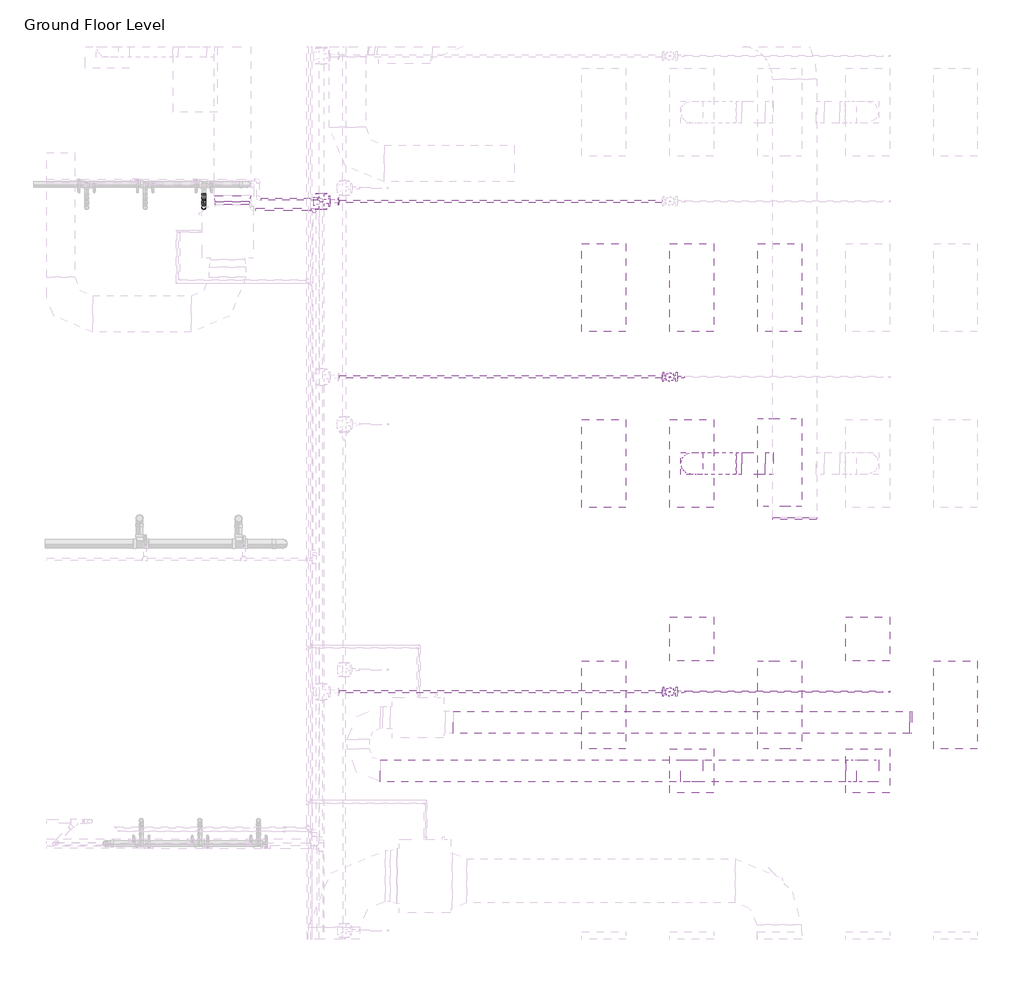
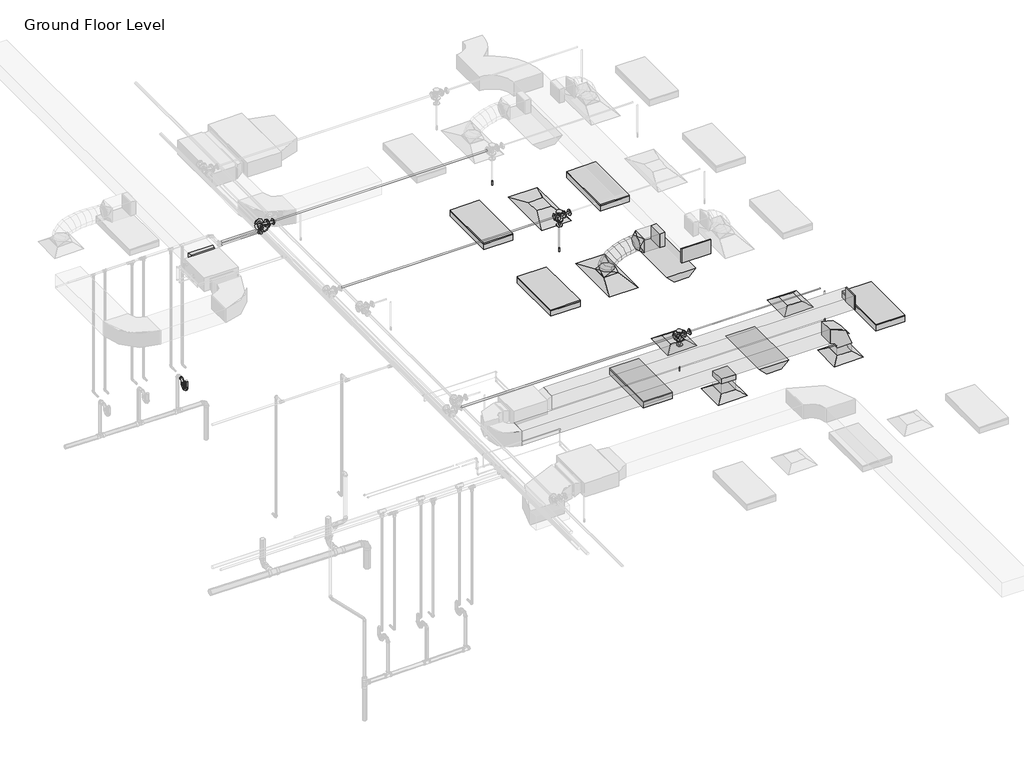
# One storey, part 22 of 74: 13 pipe fittings, 12 pipe segments, 8 duct fittings, 7 duct segments, 7 light fixtures, 6 air terminals, 4 fire suppression terminals.
"""IFC4 building model written with IfcOpenShell, lengths in millimetres."""

from ifc_helpers import new_model, si_unit, point, frame, frame_2d, origin, place, context, project, spatial, polyline, circle_curve, ellipse_curve, trimmed, segment, composite_curve, outline, extrude, transform, mapped, element, save
from ifc_brep_helpers import plane_surface, cylinder_surface, advanced_brep
from components import m_return_diffuser_1200x600_1200_x_600_face_300_x_300_d1983ef6, m_return_diffuser_600_x_600_face_300_x_300_connection_ff221211, m_rectangular_elbow_radius_1_w_618da153, m_rectangular_endcap_standard_0f0ff112, m_rectangular_endcap_standard_c319d4e7, m_rectangular_takeoff_standard_2be5eba1, m_rectangular_transition_angle_45_degree_c3bd3b2c, m_rectangular_to_round_transition_angle_45_degree_641efff0, m_sprinkler_dry_pendent_hosted_15_mm_dry_pendent_9bda8e11, m_emergency_recessed_lighting_fixture_600x1200_277_5b10b25d, m_troffer_light_parabolic_rectangular1_0600x1200mm_4_lamp_86473d4a, m_bend_pvc_sch_40_dwv_standard_1e7bdcc1, m_bend_pvc_sch_40_dwv_standard_776e50c4, m_reducer_flanged_cs_class_150_standard_ccf252ad, m_reducer_flanged_cs_class_150_standard_a7631c35, m_tee_round_base_flanged_cs_class_150_standard_dd767e04, m_tee_round_base_flanged_cs_class_150_standard_7e5987a1, standard_517a5a8d

model = new_model("IFC4")

# Units and contexts
model_context = context("Model", 3, world=origin())
ifc_project = project(units=[si_unit("LENGTHUNIT", "METRE", prefix="MILLI")], contexts=[model_context])

# Site, building, storey
site = spatial("IfcSite", under=ifc_project)
building = spatial("IfcBuilding", under=site)
storey = spatial("IfcBuildingStorey", under=building, Name="Ground Floor Level", Elevation=900.0)

# Air terminals
placement = place(None, origin())
m_return_diffuser_1200x600_1200_x_600_face_300_x_300_shape = m_return_diffuser_1200x600_1200_x_600_face_300_x_300_d1983ef6(model_context)
element("IfcAirTerminal", 1, ObjectType="M_Return Diffuser 1200x600 : 1200 x 600 Face 300 x 300 Connection", at=placement, inside=storey, context=model_context, shape_type="MappedRepresentation", body=[
    mapped(m_return_diffuser_1200x600_1200_x_600_face_300_x_300_shape, transform((10743.0482736, -25264.7846466, 3650.0), x_axis=(0.0, 1.0, 0.0), y_axis=(-1.0, 0.0, 0.0), z_axis=(0.0, 0.0, 1.0))),
])
m_return_diffuser_600_x_600_face_300_x_300_connection_shape = m_return_diffuser_600_x_600_face_300_x_300_connection_ff221211(model_context)
element("IfcAirTerminal", 2, ObjectType="M_Return Diffuser : 600 x 600 Face 300 x 300 Connection", at=placement, inside=storey, context=model_context, shape_type="MappedRepresentation", body=[
    mapped(m_return_diffuser_600_x_600_face_300_x_300_connection_shape, transform((10743.0482736, -31864.7846466, 3650.0), x_axis=(1.0, 0.0, 0.0), y_axis=(0.0, 1.0, 0.0), z_axis=(0.0, 0.0, 1.0))),
])
element("IfcAirTerminal", 3, ObjectType="M_Return Diffuser : 600 x 600 Face 300 x 300 Connection", at=placement, inside=storey, context=model_context, shape_type="MappedRepresentation", body=[
    mapped(m_return_diffuser_600_x_600_face_300_x_300_connection_shape, transform((13143.0482736, -31864.7846466, 3650.0), x_axis=(1.0, 0.0, 0.0), y_axis=(0.0, 1.0, 0.0), z_axis=(0.0, 0.0, 1.0))),
])
element("IfcAirTerminal", 4, ObjectType="M_Supply Diffuser 1200x600 : 1200 x 600 Face 300 x 300 Connection", at=placement, inside=storey, context=model_context, shape_type="MappedRepresentation", body=[
    mapped(m_return_diffuser_1200x600_1200_x_600_face_300_x_300_shape, transform((10743.0482736, -27664.7846466, 3650.0), x_axis=(0.0, 1.0, 0.0), y_axis=(-1.0, 0.0, 0.0), z_axis=(0.0, 0.0, 1.0))),
])
element("IfcAirTerminal", 5, ObjectType="M_Supply Diffuser : 600 x 600 Face 300 x 300 Connection", at=placement, inside=storey, context=model_context, shape_type="MappedRepresentation", body=[
    mapped(m_return_diffuser_600_x_600_face_300_x_300_connection_shape, transform((10743.0482736, -30064.7846466, 3650.0), x_axis=(1.0, 0.0, 0.0), y_axis=(0.0, 1.0, 0.0), z_axis=(0.0, 0.0, 1.0))),
])
element("IfcAirTerminal", 6, ObjectType="M_Supply Diffuser : 600 x 600 Face 300 x 300 Connection", at=placement, inside=storey, context=model_context, shape_type="MappedRepresentation", body=[
    mapped(m_return_diffuser_600_x_600_face_300_x_300_connection_shape, transform((13143.0482736, -30064.7846466, 3650.0), x_axis=(1.0, 0.0, 0.0), y_axis=(0.0, 1.0, 0.0), z_axis=(0.0, 0.0, 1.0))),
])

# Duct fittings
m_rectangular_elbow_radius_1_w_shape = m_rectangular_elbow_radius_1_w_618da153(model_context)
element("IfcDuctFitting", 7, ObjectType="M_Rectangular Elbow - Radius : 1 W", at=placement, inside=storey, context=model_context, shape_type="MappedRepresentation", body=[
    mapped(m_rectangular_elbow_radius_1_w_shape, transform((13143.0482736, -31864.7846466, 4221.2), x_axis=(0.0, 0.0, 1.0), y_axis=(-1.0, 0.0, 0.0), z_axis=(0.0, -1.0, 0.0))),
])
m_rectangular_endcap_standard_shape = m_rectangular_endcap_standard_0f0ff112(model_context)
element("IfcDuctFitting", 8, ObjectType="M_Rectangular Endcap : Standard", at=placement, inside=storey, context=model_context, shape_type="MappedRepresentation", body=[
    mapped(m_rectangular_endcap_standard_shape, transform((12147.7826463, -28403.2846466, 4150.0002153), x_axis=(0.0, -1.0, 0.0), y_axis=(1.0, 0.0, 0.0), z_axis=(0.0, 0.0, 1.0))),
])
m_rectangular_endcap_standard_2_shape = m_rectangular_endcap_standard_c319d4e7(model_context)
element("IfcDuctFitting", 9, ObjectType="M_Rectangular Endcap : Standard", at=placement, inside=storey, context=model_context, shape_type="MappedRepresentation", body=[
    mapped(m_rectangular_endcap_standard_2_shape, transform((13719.2644074, -31200.1877703, 4245.9), x_axis=(0.9999999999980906, 0.0, -1.954187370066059e-06), y_axis=(0.0, 1.0000000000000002, 0.0), z_axis=(1.954187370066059e-06, 0.0, 0.9999999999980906))),
])
m_rectangular_takeoff_standard_shape = m_rectangular_takeoff_standard_2be5eba1(model_context)
element("IfcDuctFitting", 10, ObjectType="M_Rectangular Takeoff : Standard", at=placement, inside=storey, context=model_context, shape_type="MappedRepresentation", body=[
    mapped(m_rectangular_takeoff_standard_shape, transform((11847.7826463, -27664.7846466, 4150.0), x_axis=(-1.0, 0.0, 0.0), y_axis=(0.0, 1.0, 0.0), z_axis=(0.0, 0.0, -1.0))),
])
element("IfcDuctFitting", 11, ObjectType="M_Rectangular Takeoff : Standard", at=placement, inside=storey, context=model_context, shape_type="MappedRepresentation", body=[
    mapped(m_rectangular_takeoff_standard_shape, transform((10743.0482736, -31864.7846466, 4071.2), x_axis=(0.0, 0.0, -1.0), y_axis=(-1.0, 0.0, 0.0), z_axis=(0.0, 1.0, 0.0))),
])
m_rectangular_transition_angle_45_degree_shape = m_rectangular_transition_angle_45_degree_c3bd3b2c(model_context)
element("IfcDuctFitting", 12, ObjectType="M_Rectangular Transition - Angle : 45 Degree", at=placement, inside=storey, context=model_context, shape_type="MappedRepresentation", body=[
    mapped(m_rectangular_transition_angle_45_degree_shape, transform((4469.1581832, -24003.4668801, 4057.1548873), x_axis=(0.0, -0.9999999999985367, 1.7107374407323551e-06), y_axis=(1.0, 0.0, 0.0), z_axis=(0.0, 1.7107374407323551e-06, 0.9999999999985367))),
])
m_rectangular_to_round_transition_angle_45_degree_shape = m_rectangular_to_round_transition_angle_45_degree_641efff0(model_context)
element("IfcDuctFitting", 13, ObjectType="M_Rectangular to Round Transition - Angle : 45 Degree", at=placement, inside=storey, context=model_context, shape_type="MappedRepresentation", body=[
    mapped(m_rectangular_to_round_transition_angle_45_degree_shape, transform((10743.0482736, -27664.7846466, 3751.6), x_axis=(0.0, 0.0, 1.0), y_axis=(-1.0, 0.0, 0.0), z_axis=(0.0, -1.0, 0.0))),
])
element("IfcDuctFitting", 14, ObjectType="M_Rectangular to Round Transition - Angle : 45 Degree", at=placement, inside=storey, context=model_context, shape_type="MappedRepresentation", body=[
    mapped(m_rectangular_to_round_transition_angle_45_degree_shape, transform((11424.4842049, -27664.7846466, 4150.0), x_axis=(-1.0, 0.0, 0.0), y_axis=(0.0, -1.0, 0.0), z_axis=(0.0, 0.0, 1.0))),
])

# Duct segments
element("IfcDuctSegment", 15, ObjectType="Flex - Round", at=placement, inside=storey, context=model_context, shape_type="AdvancedBrep", body=[
    advanced_brep(
    [(10893.0482736, -27664.7846466, 3826.6), (10743.0482736, -27814.7846466, 3826.6), (10593.0482736, -27664.7846466, 3826.6), (10743.0482736, -27514.7846466, 3826.6), (10893.0482736, -27664.7846466, 3832.4838104), (10743.0482736, -27814.7846466, 3857.3049615), (10593.0482736, -27664.7846466, 3882.1261126), (10743.0482736, -27514.7846466, 3857.3049615), (10895.1777586, -27664.7846466, 3838.7421096), (10759.7096782, -27814.7846466, 3906.2708192), (10624.2415979, -27664.7846466, 3973.7995287), (10759.7096782, -27514.7846466, 3906.2708192), (10917.1997864, -27664.7846466, 3871.1472855), (10805.5876959, -27814.7846466, 3973.7798261), (10693.9756053, -27664.7846466, 4076.4123668), (10805.5876959, -27514.7846466, 3973.7798261), (10957.142511, -27664.7846466, 3903.4915826), (10874.5230324, -27814.7846466, 4029.6013814), (10791.9035539, -27664.7846466, 4155.7111802), (10874.5230324, -27514.7846466, 4029.6013814), (11020.0646936, -27664.7846466, 3936.1928758), (10960.3563938, -27814.7846466, 4074.2098454), (10900.6480941, -27664.7846466, 4212.226815), (10960.3563938, -27514.7846466, 4074.2098454), (11098.9170855, -27664.7846466, 3963.8479616), (11056.9284859, -27814.7846466, 4108.0795788), (11014.9398863, -27664.7846466, 4252.311196), (11056.9284859, -27514.7846466, 4108.0795788), (11185.4890682, -27664.7846466, 3984.0509494), (11158.0800145, -27814.7846466, 4131.684942), (11130.6709609, -27664.7846466, 4279.3189347), (11158.0800145, -27514.7846466, 4131.684942), (11271.9732516, -27664.7846466, 3996.0504424), (11257.6516856, -27814.7846466, 4145.5002956), (11243.3301196, -27664.7846466, 4294.9501488), (11257.6516856, -27514.7846466, 4145.5002956), (11346.1345531, -27664.7846466, 4000.0), (11342.1431577, -27814.7846466, 4150.0), (11338.1517622, -27664.7846466, 4300.0), (11342.1431577, -27514.7846466, 4150.0), (11349.4842049, -27664.7846466, 4000.0), (11349.4842049, -27514.7846466, 4150.0), (11349.4842049, -27664.7846466, 4300.0), (11349.4842049, -27814.7846466, 4150.0)],
    [
        (0, 1, circle_curve(frame((10743.0482736, -27664.7846466, 3826.6), z_axis=(0.0, 0.0, -1.0), x_axis=(1.0, 0.0, 0.0)), 150.0)),
        (1, 2, circle_curve(frame((10743.0482736, -27664.7846466, 3826.6), z_axis=(0.0, 0.0, -1.0), x_axis=(1.0, 0.0, 0.0)), 150.0)),
        (2, 3, circle_curve(frame((10743.0482736, -27664.7846466, 3826.6), z_axis=(0.0, 0.0, -1.0), x_axis=(1.0, 0.0, 0.0)), 150.0)),
        (3, 0, circle_curve(frame((10743.0482736, -27664.7846466, 3826.6), z_axis=(0.0, 0.0, -1.0), x_axis=(1.0, 0.0, 0.0)), 150.0)),
        (0, 4),
        (4, 5, ellipse_curve(frame((10743.0482736, -27664.7846466, 3857.3049615), z_axis=(-0.1632543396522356, 0.0, -0.9865840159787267), x_axis=(0.9865840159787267, 0.0, -0.16325433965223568)), 152.039763, 150.0)),
        (5, 1),
        (5, 6, ellipse_curve(frame((10743.0482736, -27664.7846466, 3857.3049615), z_axis=(-0.1632543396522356, 0.0, -0.9865840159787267), x_axis=(0.9865840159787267, 0.0, -0.16325433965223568)), 152.039763, 150.0)),
        (6, 2),
        (6, 7, ellipse_curve(frame((10743.0482736, -27664.7846466, 3857.3049615), z_axis=(-0.1632543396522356, 0.0, -0.9865840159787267), x_axis=(0.9865840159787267, 0.0, -0.16325433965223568)), 152.039763, 150.0)),
        (7, 3),
        (7, 4, ellipse_curve(frame((10743.0482736, -27664.7846466, 3857.3049615), z_axis=(-0.1632543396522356, 0.0, -0.9865840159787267), x_axis=(0.9865840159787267, 0.0, -0.16325433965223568)), 152.039763, 150.0)),
        (4, 8),
        (8, 9, ellipse_curve(frame((10759.7096782, -27664.7846466, 3906.2708192), z_axis=(-0.4461280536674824, 0.0, -0.8949691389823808), x_axis=(0.8949691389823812, 0.0, -0.44612805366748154)), 151.366203, 150.0)),
        (9, 5),
        (9, 10, ellipse_curve(frame((10759.7096782, -27664.7846466, 3906.2708192), z_axis=(-0.4461280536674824, 0.0, -0.8949691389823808), x_axis=(0.8949691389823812, 0.0, -0.44612805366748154)), 151.366203, 150.0)),
        (10, 6),
        (10, 11, ellipse_curve(frame((10759.7096782, -27664.7846466, 3906.2708192), z_axis=(-0.4461280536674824, 0.0, -0.8949691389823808), x_axis=(0.8949691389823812, 0.0, -0.44612805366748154)), 151.366203, 150.0)),
        (11, 7),
        (11, 8, ellipse_curve(frame((10759.7096782, -27664.7846466, 3906.2708192), z_axis=(-0.4461280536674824, 0.0, -0.8949691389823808), x_axis=(0.8949691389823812, 0.0, -0.44612805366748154)), 151.366203, 150.0)),
        (8, 12),
        (12, 13, ellipse_curve(frame((10805.5876959, -27664.7846466, 3973.7798261), z_axis=(-0.6768758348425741, 0.0, -0.7360972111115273), x_axis=(0.7360972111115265, 0.0, -0.6768758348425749)), 151.6268352, 150.0)),
        (13, 9),
        (13, 14, ellipse_curve(frame((10805.5876959, -27664.7846466, 3973.7798261), z_axis=(-0.6768758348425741, 0.0, -0.7360972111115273), x_axis=(0.7360972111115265, 0.0, -0.6768758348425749)), 151.6268352, 150.0)),
        (14, 10),
        (14, 15, ellipse_curve(frame((10805.5876959, -27664.7846466, 3973.7798261), z_axis=(-0.6768758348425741, 0.0, -0.7360972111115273), x_axis=(0.7360972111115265, 0.0, -0.6768758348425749)), 151.6268352, 150.0)),
        (15, 11),
        (15, 12, ellipse_curve(frame((10805.5876959, -27664.7846466, 3973.7798261), z_axis=(-0.6768758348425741, 0.0, -0.7360972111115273), x_axis=(0.7360972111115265, 0.0, -0.6768758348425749)), 151.6268352, 150.0)),
        (12, 16),
        (16, 17, ellipse_curve(frame((10874.5230324, -27664.7846466, 4029.6013814), z_axis=(-0.8364738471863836, 0.0, -0.5480068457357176), x_axis=(0.5480068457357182, 0.0, -0.8364738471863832)), 150.7635884, 150.0)),
        (17, 13),
        (17, 18, ellipse_curve(frame((10874.5230324, -27664.7846466, 4029.6013814), z_axis=(-0.8364738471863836, 0.0, -0.5480068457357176), x_axis=(0.5480068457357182, 0.0, -0.8364738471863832)), 150.7635884, 150.0)),
        (18, 14),
        (18, 19, ellipse_curve(frame((10874.5230324, -27664.7846466, 4029.6013814), z_axis=(-0.8364738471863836, 0.0, -0.5480068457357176), x_axis=(0.5480068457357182, 0.0, -0.8364738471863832)), 150.7635884, 150.0)),
        (19, 15),
        (19, 16, ellipse_curve(frame((10874.5230324, -27664.7846466, 4029.6013814), z_axis=(-0.8364738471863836, 0.0, -0.5480068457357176), x_axis=(0.5480068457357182, 0.0, -0.8364738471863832)), 150.7635884, 150.0)),
        (16, 20),
        (20, 21, ellipse_curve(frame((10960.3563938, -27664.7846466, 4074.2098454), z_axis=(-0.9177957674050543, 0.0, -0.3970528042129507), x_axis=(0.3970528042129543, 0.0, -0.9177957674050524)), 150.3787384, 150.0)),
        (21, 17),
        (21, 22, ellipse_curve(frame((10960.3563938, -27664.7846466, 4074.2098454), z_axis=(-0.9177957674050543, 0.0, -0.3970528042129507), x_axis=(0.3970528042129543, 0.0, -0.9177957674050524)), 150.3787384, 150.0)),
        (22, 18),
        (22, 23, ellipse_curve(frame((10960.3563938, -27664.7846466, 4074.2098454), z_axis=(-0.9177957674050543, 0.0, -0.3970528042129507), x_axis=(0.3970528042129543, 0.0, -0.9177957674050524)), 150.3787384, 150.0)),
        (23, 19),
        (23, 20, ellipse_curve(frame((10960.3563938, -27664.7846466, 4074.2098454), z_axis=(-0.9177957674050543, 0.0, -0.3970528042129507), x_axis=(0.3970528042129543, 0.0, -0.9177957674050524)), 150.3787384, 150.0)),
        (20, 24),
        (24, 25, ellipse_curve(frame((11056.9284859, -27664.7846466, 4108.0795788), z_axis=(-0.9601411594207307, 0.0, -0.27951557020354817), x_axis=(0.2795155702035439, 0.0, -0.9601411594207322)), 150.2191795, 150.0)),
        (25, 21),
        (25, 26, ellipse_curve(frame((11056.9284859, -27664.7846466, 4108.0795788), z_axis=(-0.9601411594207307, 0.0, -0.27951557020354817), x_axis=(0.2795155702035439, 0.0, -0.9601411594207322)), 150.2191795, 150.0)),
        (26, 22),
        (26, 27, ellipse_curve(frame((11056.9284859, -27664.7846466, 4108.0795788), z_axis=(-0.9601411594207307, 0.0, -0.27951557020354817), x_axis=(0.2795155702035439, 0.0, -0.9601411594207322)), 150.2191795, 150.0)),
        (27, 23),
        (27, 24, ellipse_curve(frame((11056.9284859, -27664.7846466, 4108.0795788), z_axis=(-0.9601411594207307, 0.0, -0.27951557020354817), x_axis=(0.2795155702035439, 0.0, -0.9601411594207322)), 150.2191795, 150.0)),
        (24, 28),
        (28, 29, ellipse_curve(frame((11158.0800145, -27664.7846466, 4131.684942), z_axis=(-0.9831991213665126, 0.0, -0.1825362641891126), x_axis=(0.18253626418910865, 0.0, -0.9831991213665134)), 150.1567581, 150.0)),
        (29, 25),
        (29, 30, ellipse_curve(frame((11158.0800145, -27664.7846466, 4131.684942), z_axis=(-0.9831991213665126, 0.0, -0.1825362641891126), x_axis=(0.18253626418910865, 0.0, -0.9831991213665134)), 150.1567581, 150.0)),
        (30, 26),
        (30, 31, ellipse_curve(frame((11158.0800145, -27664.7846466, 4131.684942), z_axis=(-0.9831991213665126, 0.0, -0.1825362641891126), x_axis=(0.18253626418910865, 0.0, -0.9831991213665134)), 150.1567581, 150.0)),
        (31, 27),
        (31, 28, ellipse_curve(frame((11158.0800145, -27664.7846466, 4131.684942), z_axis=(-0.9831991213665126, 0.0, -0.1825362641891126), x_axis=(0.18253626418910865, 0.0, -0.9831991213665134)), 150.1567581, 150.0)),
        (28, 32),
        (32, 33, ellipse_curve(frame((11257.6516856, -27664.7846466, 4145.5002956), z_axis=(-0.9954398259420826, 0.0, -0.09539157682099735), x_axis=(0.09539157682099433, 0.0, -0.9954398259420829)), 150.1344926, 150.0)),
        (33, 29),
        (33, 34, ellipse_curve(frame((11257.6516856, -27664.7846466, 4145.5002956), z_axis=(-0.9954398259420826, 0.0, -0.09539157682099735), x_axis=(0.09539157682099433, 0.0, -0.9954398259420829)), 150.1344926, 150.0)),
        (34, 30),
        (34, 35, ellipse_curve(frame((11257.6516856, -27664.7846466, 4145.5002956), z_axis=(-0.9954398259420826, 0.0, -0.09539157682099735), x_axis=(0.09539157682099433, 0.0, -0.9954398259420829)), 150.1344926, 150.0)),
        (35, 31),
        (35, 32, ellipse_curve(frame((11257.6516856, -27664.7846466, 4145.5002956), z_axis=(-0.9954398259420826, 0.0, -0.09539157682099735), x_axis=(0.09539157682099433, 0.0, -0.9954398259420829)), 150.1344926, 150.0)),
        (32, 36),
        (36, 37, ellipse_curve(frame((11342.1431577, -27664.7846466, 4150.0), z_axis=(-0.9996461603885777, 0.0, -0.02659988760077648), x_axis=(0.026599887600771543, 0.0, -0.9996461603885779)), 150.0530947, 150.0)),
        (37, 33),
        (37, 38, ellipse_curve(frame((11342.1431577, -27664.7846466, 4150.0), z_axis=(-0.9996461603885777, 0.0, -0.02659988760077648), x_axis=(0.026599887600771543, 0.0, -0.9996461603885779)), 150.0530947, 150.0)),
        (38, 34),
        (38, 39, ellipse_curve(frame((11342.1431577, -27664.7846466, 4150.0), z_axis=(-0.9996461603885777, 0.0, -0.02659988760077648), x_axis=(0.026599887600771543, 0.0, -0.9996461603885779)), 150.0530947, 150.0)),
        (39, 35),
        (39, 36, ellipse_curve(frame((11342.1431577, -27664.7846466, 4150.0), z_axis=(-0.9996461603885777, 0.0, -0.02659988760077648), x_axis=(0.026599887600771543, 0.0, -0.9996461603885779)), 150.0530947, 150.0)),
        (40, 41, circle_curve(frame((11349.4842049, -27664.7846466, 4150.0), z_axis=(1.0, 0.0, 0.0), x_axis=(0.0, 0.0, -1.0)), 150.0)),
        (41, 42, circle_curve(frame((11349.4842049, -27664.7846466, 4150.0), z_axis=(1.0, 0.0, 0.0), x_axis=(0.0, 0.0, -1.0)), 150.0)),
        (42, 43, circle_curve(frame((11349.4842049, -27664.7846466, 4150.0), z_axis=(1.0, 0.0, 0.0), x_axis=(0.0, 0.0, -1.0)), 150.0)),
        (43, 40, circle_curve(frame((11349.4842049, -27664.7846466, 4150.0), z_axis=(1.0, 0.0, 0.0), x_axis=(0.0, 0.0, -1.0)), 150.0)),
        (36, 40),
        (43, 37),
        (42, 38),
        (41, 39),
    ],
    [
        plane_surface(frame((10743.0482736, -27814.7846466, 3826.6), z_axis=(0.0, 0.0, -1.0), x_axis=(1.0, 0.0, 0.0))),
        cylinder_surface(frame((10743.0482736, -27664.7846466, 3826.6), z_axis=(0.0, 0.0, -1.0), x_axis=(1.0, 0.0, 0.0)), 150.0),
        cylinder_surface(frame((10743.0482736, -27664.7846466, 3857.3049615), z_axis=(-0.32212824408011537, 0.0, -0.946696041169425), x_axis=(0.946696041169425, 0.0, -0.32212824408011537)), 150.0),
        cylinder_surface(frame((10759.7096782, -27664.7846466, 3906.2708192), z_axis=(-0.5620745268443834, 0.0, -0.827086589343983), x_axis=(0.827086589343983, 0.0, -0.5620745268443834)), 150.0),
        cylinder_surface(frame((10805.5876959, -27664.7846466, 3973.7798261), z_axis=(-0.7771524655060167, 0.0, -0.6293123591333), x_axis=(0.6293123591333, 0.0, -0.7771524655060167)), 150.0),
        cylinder_surface(frame((10874.5230324, -27664.7846466, 4029.6013814), z_axis=(-0.8873220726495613, 0.0, -0.4611502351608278), x_axis=(0.4611502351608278, 0.0, -0.8873220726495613)), 150.0),
        cylinder_surface(frame((10960.3563938, -27664.7846466, 4074.2098454), z_axis=(-0.9436464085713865, 0.0, -0.33095536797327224), x_axis=(0.33095536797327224, 0.0, -0.9436464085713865)), 150.0),
        cylinder_surface(frame((11056.9284859, -27664.7846466, 4108.0795788), z_axis=(-0.9738340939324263, 0.0, -0.22726010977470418), x_axis=(0.22726010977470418, 0.0, -0.9738340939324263)), 150.0),
        cylinder_surface(frame((11158.0800145, -27664.7846466, 4131.684942), z_axis=(-0.9905113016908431, 0.0, -0.13743129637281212), x_axis=(0.13743129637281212, 0.0, -0.9905113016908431)), 150.0),
        cylinder_surface(frame((11257.6516856, -27664.7846466, 4145.5002956), z_axis=(-0.9985848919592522, 0.0, -0.05318095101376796), x_axis=(0.05318095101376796, 0.0, -0.9985848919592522)), 150.0),
        plane_surface(frame((11349.4842049, -27664.7846466, 4000.0), z_axis=(1.0, 0.0, 0.0), x_axis=(0.0, 1.0, 0.0))),
        cylinder_surface(frame((11342.1431577, -27664.7846466, 4150.0), z_axis=(-1.0, 0.0, 0.0), x_axis=(0.0, 0.0, -1.0)), 150.0),
    ],
    [
        (0, [[1, 2, 3, 4]]),
        (1, [[-1, 5, 6, 7]]),
        (1, [[-2, -7, 8, 9]]),
        (1, [[-3, -9, 10, 11]]),
        (1, [[-4, -11, 12, -5]]),
        (2, [[-6, 13, 14, 15]]),
        (2, [[-8, -15, 16, 17]]),
        (2, [[-10, -17, 18, 19]]),
        (2, [[-12, -19, 20, -13]]),
        (3, [[-14, 21, 22, 23]]),
        (3, [[-16, -23, 24, 25]]),
        (3, [[-18, -25, 26, 27]]),
        (3, [[-20, -27, 28, -21]]),
        (4, [[-22, 29, 30, 31]]),
        (4, [[-24, -31, 32, 33]]),
        (4, [[-26, -33, 34, 35]]),
        (4, [[-28, -35, 36, -29]]),
        (5, [[-30, 37, 38, 39]]),
        (5, [[-32, -39, 40, 41]]),
        (5, [[-34, -41, 42, 43]]),
        (5, [[-36, -43, 44, -37]]),
        (6, [[-38, 45, 46, 47]]),
        (6, [[-40, -47, 48, 49]]),
        (6, [[-42, -49, 50, 51]]),
        (6, [[-44, -51, 52, -45]]),
        (7, [[-46, 53, 54, 55]]),
        (7, [[-48, -55, 56, 57]]),
        (7, [[-50, -57, 58, 59]]),
        (7, [[-52, -59, 60, -53]]),
        (8, [[-54, 61, 62, 63]]),
        (8, [[-56, -63, 64, 65]]),
        (8, [[-58, -65, 66, 67]]),
        (8, [[-60, -67, 68, -61]]),
        (9, [[-62, 69, 70, 71]]),
        (9, [[-64, -71, 72, 73]]),
        (9, [[-66, -73, 74, 75]]),
        (9, [[-68, -75, 76, -69]]),
        (10, [[77, 78, 79, 80]]),
        (11, [[-70, 81, -80, 82]]),
        (11, [[-72, -82, -79, 83]]),
        (11, [[-74, -83, -78, 84]]),
        (11, [[-76, -84, -77, -81]]),
    ],
),
])
element("IfcDuctSegment", 16, ObjectType="Radius Elbows / Taps", at=placement, inside=storey, context=model_context, shape_type="SweptSolid", body=[
    extrude(outline(polyline([(11746.1826463, -27514.7846466), (11746.1826463, -27814.7846466), (11424.4842049, -27814.7846466), (11424.4842049, -27514.7846466), (11746.1826463, -27514.7846466)])), frame((0.0, 0.0, 4000.0), z_axis=(0.0, 0.0, 1.0), x_axis=(1.0, 0.0, 0.0)), (0.0, 0.0, 1.0), 300.0),
])
element("IfcDuctSegment", 17, ObjectType="Radius Elbows / Taps", at=placement, inside=storey, context=model_context, shape_type="SweptSolid", body=[
    extrude(outline(polyline([(0.0, -300.0), (0.0, 0.0), (6236.5207712, 0.0), (6236.5207712, -300.0), (0.0, -300.0)])), frame((7482.7433356, -31050.1877703, 4095.9125), z_axis=(2.004322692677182e-06, 0.0, 0.9999999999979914), x_axis=(0.9999999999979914, 0.0, -2.004322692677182e-06)), (0.0, 0.0, 1.0), 300.0),
])
element("IfcDuctSegment", 18, ObjectType="Radius Elbows / Taps", at=placement, inside=storey, context=model_context, shape_type="SweptSolid", body=[
    extrude(outline(polyline([(6488.4644074, -32014.7846466), (6488.4644074, -31714.7846466), (12843.0482736, -31714.7846466), (12843.0482736, -32014.7846466), (6488.4644074, -32014.7846466)])), frame((0.0, 0.0, 4071.2), z_axis=(0.0, 0.0, 1.0), x_axis=(1.0, 0.0, 0.0)), (0.0, 0.0, 1.0), 300.0),
])
element("IfcDuctSegment", 19, ObjectType="Radius Elbows / Taps", at=placement, inside=storey, context=model_context, shape_type="SweptSolid", body=[
    extrude(outline(polyline([(12993.0482736, -32014.7846466), (12993.0482736, -31714.7846466), (13293.0482736, -31714.7846466), (13293.0482736, -32014.7846466), (12993.0482736, -32014.7846466)])), frame((0.0, 0.0, 3751.6), z_axis=(0.0, 0.0, 1.0), x_axis=(1.0, 0.0, 0.0)), (0.0, 0.0, 1.0), 169.6),
])
element("IfcDuctSegment", 20, ObjectType="Radius Elbows / Taps", at=placement, inside=storey, context=model_context, shape_type="SweptSolid", body=[
    extrude(outline(polyline([(10893.0482736, -32014.7846466), (10593.0482736, -32014.7846466), (10593.0482736, -31714.7846466), (10893.0482736, -31714.7846466), (10893.0482736, -32014.7846466)])), frame((0.0, 0.0, 3751.6), z_axis=(0.0, 0.0, 1.0), x_axis=(1.0, 0.0, 0.0)), (0.0, 0.0, 1.0), 218.0),
])
element("IfcDuctSegment", 21, ObjectType="Radius Elbows / Taps", at=placement, inside=storey, context=model_context, shape_type="SweptSolid", body=[
    extrude(outline(polyline([(4700.0956832, -24131.8627051), (4238.2206832, -24131.8627051), (4238.2206832, -24089.1912487), (4700.0956832, -24089.1912487), (4700.0956832, -24131.8627051)])), frame((0.0, 0.0, 3992.8804453), z_axis=(0.0, 0.0, 1.0), x_axis=(1.0, 0.0, 0.0)), (0.0, 0.0, 1.0), 214.275),
])

# Fire suppression terminals
m_sprinkler_dry_pendent_hosted_15_mm_dry_pendent_shape = m_sprinkler_dry_pendent_hosted_15_mm_dry_pendent_9bda8e11(model_context)
element("IfcFireSuppressionTerminal", 22, ObjectType="M_Sprinkler - Dry - Pendent - Hosted : 15 mm Dry Pendent", at=placement, inside=storey, context=model_context, shape_type="MappedRepresentation", body=[
    mapped(m_sprinkler_dry_pendent_hosted_15_mm_dry_pendent_shape, transform((10443.0482736, -24083.6779349, 3650.0), x_axis=(1.0, 0.0, 0.0), y_axis=(0.0, -1.0, 0.0), z_axis=(0.0, 0.0, -1.0))),
])
element("IfcFireSuppressionTerminal", 23, ObjectType="M_Sprinkler - Dry - Pendent - Hosted : 15 mm Dry Pendent", at=placement, inside=storey, context=model_context, shape_type="MappedRepresentation", body=[
    mapped(m_sprinkler_dry_pendent_hosted_15_mm_dry_pendent_shape, transform((10443.0482736, -26484.6295433, 3650.0), x_axis=(1.0, 0.0, 0.0), y_axis=(0.0, -1.0, 0.0), z_axis=(0.0, 0.0, -1.0))),
])
element("IfcFireSuppressionTerminal", 24, ObjectType="M_Sprinkler - Dry - Pendent - Hosted : 15 mm Dry Pendent", at=placement, inside=storey, context=model_context, shape_type="MappedRepresentation", body=[
    mapped(m_sprinkler_dry_pendent_hosted_15_mm_dry_pendent_shape, transform((10443.0482736, -30785.1783804, 3650.0), x_axis=(1.0, 0.0, 0.0), y_axis=(0.0, -1.0, 0.0), z_axis=(0.0, 0.0, -1.0))),
])
element("IfcFireSuppressionTerminal", 25, ObjectType="M_Sprinkler - Dry - Pendent - Hosted : 15 mm Dry Pendent", at=placement, inside=storey, context=model_context, shape_type="MappedRepresentation", body=[
    mapped(m_sprinkler_dry_pendent_hosted_15_mm_dry_pendent_shape, transform((13443.0482736, -30785.1783804, 3650.0), x_axis=(1.0, 0.0, 0.0), y_axis=(0.0, -1.0, 0.0), z_axis=(0.0, 0.0, -1.0))),
])

# Light fixtures
m_emergency_recessed_lighting_fixture_600x1200_277_shape = m_emergency_recessed_lighting_fixture_600x1200_277_5b10b25d(model_context)
element("IfcLightFixture", 26, ObjectType="M_Emergency Recessed Lighting Fixture : 600x1200 - 277", at=placement, inside=storey, context=model_context, shape_type="MappedRepresentation", body=[
    mapped(m_emergency_recessed_lighting_fixture_600x1200_277_shape, transform((11643.0482736, -28254.7846466, 3650.0), x_axis=(0.0, 1.0, 0.0), y_axis=(-1.0, 0.0, 0.0), z_axis=(0.0, 0.0, 1.0))),
])
element("IfcLightFixture", 27, ObjectType="M_Emergency Recessed Lighting Fixture : 600x1200 - 277", at=placement, inside=storey, context=model_context, shape_type="MappedRepresentation", body=[
    mapped(m_emergency_recessed_lighting_fixture_600x1200_277_shape, transform((11643.0482736, -31564.7846466, 3650.0), x_axis=(0.0, 1.0, 0.0), y_axis=(-1.0, 0.0, 0.0), z_axis=(0.0, 0.0, 1.0))),
])
m_troffer_light_parabolic_rectangular1_0600x1200mm_4_lamp_shape = m_troffer_light_parabolic_rectangular1_0600x1200mm_4_lamp_86473d4a(model_context)
element("IfcLightFixture", 28, ObjectType="M_Troffer Light - Parabolic Rectangular1 : 0600x1200mm(4 Lamp) - 277V 2", at=placement, inside=storey, context=model_context, shape_type="MappedRepresentation", body=[
    mapped(m_troffer_light_parabolic_rectangular1_0600x1200mm_4_lamp_shape, transform((9483.5823415, -25246.081145, 3650.0), x_axis=(0.0, 1.0, 0.0), y_axis=(-1.0, 0.0, 0.0), z_axis=(0.0, 0.0, 1.0))),
])
element("IfcLightFixture", 29, ObjectType="M_Troffer Light - Parabolic Rectangular1 : 0600x1200mm(4 Lamp) - 277V 2", at=placement, inside=storey, context=model_context, shape_type="MappedRepresentation", body=[
    mapped(m_troffer_light_parabolic_rectangular1_0600x1200mm_4_lamp_shape, transform((11883.5823415, -25246.081145, 3650.0), x_axis=(0.0, 1.0, 0.0), y_axis=(-1.0, 0.0, 0.0), z_axis=(0.0, 0.0, 1.0))),
])
element("IfcLightFixture", 30, ObjectType="M_Troffer Light - Parabolic Rectangular1 : 0600x1200mm(4 Lamp) - 277V 2", at=placement, inside=storey, context=model_context, shape_type="MappedRepresentation", body=[
    mapped(m_troffer_light_parabolic_rectangular1_0600x1200mm_4_lamp_shape, transform((9483.5823415, -27646.081145, 3650.0), x_axis=(0.0, 1.0, 0.0), y_axis=(-1.0, 0.0, 0.0), z_axis=(0.0, 0.0, 1.0))),
])
element("IfcLightFixture", 31, ObjectType="M_Troffer Light - Parabolic Rectangular1 : 0600x1200mm(4 Lamp) - 277V 2", at=placement, inside=storey, context=model_context, shape_type="MappedRepresentation", body=[
    mapped(m_troffer_light_parabolic_rectangular1_0600x1200mm_4_lamp_shape, transform((9483.5823415, -30946.081145, 3650.0), x_axis=(0.0, 1.0, 0.0), y_axis=(-1.0, 0.0, 0.0), z_axis=(0.0, 0.0, 1.0))),
])
element("IfcLightFixture", 32, ObjectType="M_Troffer Light - Parabolic Rectangular1 : 0600x1200mm(4 Lamp) - 277V 2", at=placement, inside=storey, context=model_context, shape_type="MappedRepresentation", body=[
    mapped(m_troffer_light_parabolic_rectangular1_0600x1200mm_4_lamp_shape, transform((14283.5823415, -30946.081145, 3650.0), x_axis=(0.0, 1.0, 0.0), y_axis=(-1.0, 0.0, 0.0), z_axis=(0.0, 0.0, 1.0))),
])

# Pipe fittings
m_bend_pvc_sch_40_dwv_standard_shape = m_bend_pvc_sch_40_dwv_standard_1e7bdcc1(model_context)
element("IfcPipeFitting", 33, ObjectType="M_Bend - PVC - Sch 40 - DWV : Standard", at=placement, inside=storey, context=model_context, shape_type="MappedRepresentation", body=[
    mapped(m_bend_pvc_sch_40_dwv_standard_shape, transform((4079.14976, -24168.3528577, 1360.00001), x_axis=(0.0, -0.9999500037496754, 0.009999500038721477), y_axis=(0.0, 0.009999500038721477, 0.9999500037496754), z_axis=(-1.0, 0.0, 0.0))),
])
m_bend_pvc_sch_40_dwv_standard_2_shape = m_bend_pvc_sch_40_dwv_standard_776e50c4(model_context)
element("IfcPipeFitting", 34, ObjectType="M_Bend - PVC - Sch 40 - DWV : Standard", at=placement, inside=storey, context=model_context, shape_type="MappedRepresentation", body=[
    mapped(m_bend_pvc_sch_40_dwv_standard_2_shape, transform((4079.14976, -24038.3518579, 1358.7), x_axis=(0.0, 0.9999500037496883, -0.009999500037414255), y_axis=(0.0, 0.009999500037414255, 0.9999500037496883), z_axis=(1.0, 0.0, 0.0))),
])
element("IfcPipeFitting", 35, ObjectType="M_Bend - PVC - Sch 40 - DWV : Standard", at=placement, inside=storey, context=model_context, shape_type="MappedRepresentation", body=[
    mapped(m_bend_pvc_sch_40_dwv_standard_2_shape, transform((4079.14976, -24038.3518579, 1510.09999), x_axis=(0.0, 0.0, 1.0), y_axis=(0.0, 1.0, 0.0), z_axis=(-1.0, 0.0, 0.0))),
])
m_reducer_flanged_cs_class_150_standard_shape = m_reducer_flanged_cs_class_150_standard_ccf252ad(model_context)
element("IfcPipeFitting", 36, ObjectType="M_Reducer - Flanged - CS - Class 150 : Standard", at=placement, inside=storey, context=model_context, shape_type="MappedRepresentation", body=[
    mapped(m_reducer_flanged_cs_class_150_standard_shape, transform((10543.7568674, -30785.1783804, 4347.5), x_axis=(1.0, 0.0, 0.0), y_axis=(0.0, 0.0, 1.0), z_axis=(0.0, -1.0, 0.0))),
])
element("IfcPipeFitting", 37, ObjectType="M_Reducer - Flanged - CS - Class 150 : Standard", at=placement, inside=storey, context=model_context, shape_type="MappedRepresentation", body=[
    mapped(m_reducer_flanged_cs_class_150_standard_shape, transform((10443.0482736, -30785.1783804, 4246.7914063), x_axis=(0.0, 0.0, -1.0), y_axis=(-1.0, 0.0, 0.0), z_axis=(0.0, 1.0, 0.0))),
])
element("IfcPipeFitting", 38, ObjectType="M_Reducer - Flanged - CS - Class 150 : Standard", at=placement, inside=storey, context=model_context, shape_type="MappedRepresentation", body=[
    mapped(m_reducer_flanged_cs_class_150_standard_shape, transform((10543.7568674, -26484.6295433, 4347.5), x_axis=(1.0, 0.0, 0.0), y_axis=(0.0, 0.0, 1.0), z_axis=(0.0, -1.0, 0.0))),
])
element("IfcPipeFitting", 39, ObjectType="M_Reducer - Flanged - CS - Class 150 : Standard", at=placement, inside=storey, context=model_context, shape_type="MappedRepresentation", body=[
    mapped(m_reducer_flanged_cs_class_150_standard_shape, transform((10443.0482736, -26484.6295433, 4246.7914063), x_axis=(0.0, 0.0, -1.0), y_axis=(-1.0, 0.0, 0.0), z_axis=(0.0, 1.0, 0.0))),
])
m_reducer_flanged_cs_class_150_standard_2_shape = m_reducer_flanged_cs_class_150_standard_a7631c35(model_context)
element("IfcPipeFitting", 40, ObjectType="M_Reducer - Flanged - CS - Class 150 : Standard", at=placement, inside=storey, context=model_context, shape_type="MappedRepresentation", body=[
    mapped(m_reducer_flanged_cs_class_150_standard_2_shape, transform((5798.6174894, -24083.6779349, 4347.5), x_axis=(1.0, 0.0, 0.0), y_axis=(0.0, 0.0, 1.0), z_axis=(0.0, -1.0, 0.0))),
])
m_tee_round_base_flanged_cs_class_150_standard_shape = m_tee_round_base_flanged_cs_class_150_standard_dd767e04(model_context)
element("IfcPipeFitting", 41, ObjectType="M_Tee Round Base - Flanged - CS - Class 150 : Standard", at=placement, inside=storey, context=model_context, shape_type="MappedRepresentation", body=[
    mapped(m_tee_round_base_flanged_cs_class_150_standard_shape, transform((5684.6174894, -24083.6779349, 4347.5), x_axis=(0.0, -1.0, 0.0), y_axis=(-1.0, 0.0, 0.0), z_axis=(0.0, 0.0, -1.0))),
])
m_tee_round_base_flanged_cs_class_150_standard_2_shape = m_tee_round_base_flanged_cs_class_150_standard_7e5987a1(model_context)
element("IfcPipeFitting", 42, ObjectType="M_Tee Round Base - Flanged - CS - Class 150 : Standard", at=placement, inside=storey, context=model_context, shape_type="MappedRepresentation", body=[
    mapped(m_tee_round_base_flanged_cs_class_150_standard_2_shape, transform((10443.0482736, -30785.1783804, 4347.5), x_axis=(1.0, 0.0, 0.0), y_axis=(0.0, 0.0, 1.0), z_axis=(0.0, -1.0, 0.0))),
])
element("IfcPipeFitting", 43, ObjectType="M_Tee Round Base - Flanged - CS - Class 150 : Standard", at=placement, inside=storey, context=model_context, shape_type="MappedRepresentation", body=[
    mapped(m_tee_round_base_flanged_cs_class_150_standard_2_shape, transform((10443.0482736, -26484.6295433, 4347.5), x_axis=(1.0, 0.0, 0.0), y_axis=(0.0, 0.0, 1.0), z_axis=(0.0, -1.0, 0.0))),
])
standard_shape = standard_517a5a8d(model_context)
element("IfcPipeFitting", 44, ObjectType="M_Elbow - CPVC - Sch 40 : Standard", at=placement, inside=storey, context=model_context, shape_type="MappedRepresentation", body=[
    mapped(standard_shape, transform((5589.646628, -24195.7825432, 4300.0), x_axis=(0.0, 1.0, 0.0), y_axis=(-1.0, 0.0, 0.0), z_axis=(0.0, 0.0, 1.0))),
])
element("IfcPipeFitting", 45, ObjectType="M_Elbow - CPVC - Sch 40 : Standard", at=placement, inside=storey, context=model_context, shape_type="MappedRepresentation", body=[
    mapped(standard_shape, transform((5680.5575802, -24054.921633, 4250.0), x_axis=(0.0, 1.0, 0.0), y_axis=(-1.0, 0.0, 0.0), z_axis=(0.0, 0.0, 1.0))),
])

# Pipe segments
element("IfcPipeSegment", 46, ObjectType="CPVC", at=placement, inside=storey, context=model_context, shape_type="SweptSolid", body=[
    extrude(outline(composite_curve([segment(trimmed(circle_curve(frame_2d((-24195.7825432, 4300.0)), 16.7005), [point((-24212.4830432, 4300.0))], [point((-24195.7825432, 4316.7005))], False, "CARTESIAN"), True, "CONTINUOUS"), segment(trimmed(circle_curve(frame_2d((-24195.7825432, 4300.0)), 16.7005), [point((-24195.7825432, 4316.7005))], [point((-24179.0820432, 4300.0))], False, "CARTESIAN"), True, "CONTINUOUS"), segment(trimmed(circle_curve(frame_2d((-24195.7825432, 4300.0)), 16.7005), [point((-24179.0820432, 4300.0))], [point((-24195.7825432, 4283.2995))], False, "CARTESIAN"), True, "CONTINUOUS"), segment(trimmed(circle_curve(frame_2d((-24195.7825432, 4300.0)), 16.7005), [point((-24195.7825432, 4283.2995))], [point((-24212.4830432, 4300.0))], False, "CARTESIAN"), True, "CONTINUOUS")], self_intersect=False)), frame((4786.3272706, 0.0, 0.0), z_axis=(1.0, 0.0, 0.0), x_axis=(0.0, 1.0, 0.0)), (0.0, 0.0, 1.0), 760.0568074),
])
element("IfcPipeSegment", 47, ObjectType="CPVC", at=placement, inside=storey, context=model_context, shape_type="SweptSolid", body=[
    extrude(outline(composite_curve([segment(trimmed(circle_curve(frame_2d((-24054.921633, 4250.0)), 16.7005), [point((-24038.221133, 4250.0))], [point((-24054.921633, 4233.2995))], False, "CARTESIAN"), True, "CONTINUOUS"), segment(trimmed(circle_curve(frame_2d((-24054.921633, 4250.0)), 16.7005), [point((-24054.921633, 4233.2995))], [point((-24071.622133, 4250.0))], False, "CARTESIAN"), True, "CONTINUOUS"), segment(trimmed(circle_curve(frame_2d((-24054.921633, 4250.0)), 16.7005), [point((-24071.622133, 4250.0))], [point((-24054.921633, 4266.7005))], False, "CARTESIAN"), True, "CONTINUOUS"), segment(trimmed(circle_curve(frame_2d((-24054.921633, 4250.0)), 16.7005), [point((-24054.921633, 4266.7005))], [point((-24038.221133, 4250.0))], False, "CARTESIAN"), True, "CONTINUOUS")], self_intersect=False)), frame((4863.8201302, 0.0, 0.0), z_axis=(1.0, 0.0, 0.0), x_axis=(0.0, 1.0, 0.0)), (0.0, 0.0, 1.0), 773.4749),
])
element("IfcPipeSegment", 48, ObjectType="PVC - DWV", at=placement, inside=storey, context=model_context, shape_type="SweptSolid", body=[
    extrude(outline(composite_curve([segment(trimmed(circle_curve(frame_2d((4079.14976, -24168.3528577)), 24.13), [point((4055.01976, -24168.3528577))], [point((4079.14976, -24144.2228577))], False, "CARTESIAN"), True, "CONTINUOUS"), segment(trimmed(circle_curve(frame_2d((4079.14976, -24168.3528577)), 24.13), [point((4079.14976, -24144.2228577))], [point((4103.27976, -24168.3528577))], False, "CARTESIAN"), True, "CONTINUOUS"), segment(trimmed(circle_curve(frame_2d((4079.14976, -24168.3528577)), 24.13), [point((4103.27976, -24168.3528577))], [point((4079.14976, -24192.4828577))], False, "CARTESIAN"), True, "CONTINUOUS"), segment(trimmed(circle_curve(frame_2d((4079.14976, -24168.3528577)), 24.13), [point((4079.14976, -24192.4828577))], [point((4055.01976, -24168.3528577))], False, "CARTESIAN"), True, "CONTINUOUS")], self_intersect=False)), frame((0.0, 0.0, 1421.89981), z_axis=(0.0, 0.0, 1.0), x_axis=(1.0, 0.0, 0.0)), (0.0, 0.0, 1.0), 128.10019),
])
element("IfcPipeSegment", 49, ObjectType="PVC - DWV", at=placement, inside=storey, context=model_context, shape_type="SweptSolid", body=[
    extrude(outline(composite_curve([segment(trimmed(circle_curve(frame_2d((0.0, -24.1299999)), 24.13), [point((24.13, -24.1299999))], [point((0.0, -48.2599999))], False, "CARTESIAN"), True, "CONTINUOUS"), segment(trimmed(circle_curve(frame_2d((0.0, -24.1299999)), 24.13), [point((0.0, -48.2599999))], [point((-24.13, -24.1299999))], False, "CARTESIAN"), True, "CONTINUOUS"), segment(trimmed(circle_curve(frame_2d((0.0, -24.1299999)), 24.13), [point((-24.13, -24.1299999))], [point((0.0, 0.0))], False, "CARTESIAN"), True, "CONTINUOUS"), segment(trimmed(circle_curve(frame_2d((0.0, -24.1299999)), 24.13), [point((0.0, 0.0))], [point((24.13, -24.1299999))], False, "CARTESIAN"), True, "CONTINUOUS")], self_intersect=False)), frame((4079.14976, -24100.0072752, 1383.4477606), z_axis=(0.0, -0.9999500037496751, 0.009999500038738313), x_axis=(1.0, 0.0, 0.0)), (0.0, 0.0, 1.0), 6.2078997),
])
element("IfcPipeSegment", 50, ObjectType="PVC - DWV", at=placement, inside=storey, context=model_context, shape_type="SweptSolid", body=[
    extrude(outline(composite_curve([segment(trimmed(circle_curve(frame_2d((4079.14976, -24038.3518579)), 24.13), [point((4055.01976, -24038.3518579))], [point((4079.14976, -24014.2218579))], False, "CARTESIAN"), True, "CONTINUOUS"), segment(trimmed(circle_curve(frame_2d((4079.14976, -24038.3518579)), 24.13), [point((4079.14976, -24014.2218579))], [point((4103.27976, -24038.3518579))], False, "CARTESIAN"), True, "CONTINUOUS"), segment(trimmed(circle_curve(frame_2d((4079.14976, -24038.3518579)), 24.13), [point((4103.27976, -24038.3518579))], [point((4079.14976, -24062.4818579))], False, "CARTESIAN"), True, "CONTINUOUS"), segment(trimmed(circle_curve(frame_2d((4079.14976, -24038.3518579)), 24.13), [point((4079.14976, -24062.4818579))], [point((4055.01976, -24038.3518579))], False, "CARTESIAN"), True, "CONTINUOUS")], self_intersect=False)), frame((0.0, 0.0, 1420.5998), z_axis=(0.0, 0.0, 1.0), x_axis=(1.0, 0.0, 0.0)), (0.0, 0.0, 1.0), 27.60039),
])
element("IfcPipeSegment", 51, ObjectType="Steel flanged", at=placement, inside=storey, context=model_context, shape_type="SweptSolid", body=[
    extrude(outline(composite_curve([segment(trimmed(circle_curve(frame_2d((13443.0482736, -30785.1783804)), 10.668), [point((13432.3802736, -30785.1783804))], [point((13443.0482736, -30774.5103804))], False, "CARTESIAN"), True, "CONTINUOUS"), segment(trimmed(circle_curve(frame_2d((13443.0482736, -30785.1783804)), 10.668), [point((13443.0482736, -30774.5103804))], [point((13453.7162736, -30785.1783804))], False, "CARTESIAN"), True, "CONTINUOUS"), segment(trimmed(circle_curve(frame_2d((13443.0482736, -30785.1783804)), 10.668), [point((13453.7162736, -30785.1783804))], [point((13443.0482736, -30795.8463804))], False, "CARTESIAN"), True, "CONTINUOUS"), segment(trimmed(circle_curve(frame_2d((13443.0482736, -30785.1783804)), 10.668), [point((13443.0482736, -30795.8463804))], [point((13432.3802736, -30785.1783804))], False, "CARTESIAN"), True, "CONTINUOUS")], self_intersect=False)), frame((0.0, 0.0, 3650.0), z_axis=(0.0, 0.0, 1.0), x_axis=(1.0, 0.0, 0.0)), (0.0, 0.0, 1.0), 604.4914062),
])
element("IfcPipeSegment", 52, ObjectType="Steel flanged", at=placement, inside=storey, context=model_context, shape_type="SweptSolid", body=[
    extrude(outline(composite_curve([segment(trimmed(circle_curve(frame_2d((10443.0482736, -30785.1783804)), 10.668), [point((10432.3802736, -30785.1783804))], [point((10443.0482736, -30774.5103804))], False, "CARTESIAN"), True, "CONTINUOUS"), segment(trimmed(circle_curve(frame_2d((10443.0482736, -30785.1783804)), 10.668), [point((10443.0482736, -30774.5103804))], [point((10453.7162736, -30785.1783804))], False, "CARTESIAN"), True, "CONTINUOUS"), segment(trimmed(circle_curve(frame_2d((10443.0482736, -30785.1783804)), 10.668), [point((10453.7162736, -30785.1783804))], [point((10443.0482736, -30795.8463804))], False, "CARTESIAN"), True, "CONTINUOUS"), segment(trimmed(circle_curve(frame_2d((10443.0482736, -30785.1783804)), 10.668), [point((10443.0482736, -30795.8463804))], [point((10432.3802736, -30785.1783804))], False, "CARTESIAN"), True, "CONTINUOUS")], self_intersect=False)), frame((0.0, 0.0, 3650.0), z_axis=(0.0, 0.0, 1.0), x_axis=(1.0, 0.0, 0.0)), (0.0, 0.0, 1.0), 482.7914062),
])
element("IfcPipeSegment", 53, ObjectType="Steel flanged", at=placement, inside=storey, context=model_context, shape_type="SweptSolid", body=[
    extrude(outline(composite_curve([segment(trimmed(circle_curve(frame_2d((-30785.1783804, 4347.5)), 16.7005), [point((-30768.4778804, 4347.5))], [point((-30785.1783804, 4330.7995))], False, "CARTESIAN"), True, "CONTINUOUS"), segment(trimmed(circle_curve(frame_2d((-30785.1783804, 4347.5)), 16.7005), [point((-30785.1783804, 4330.7995))], [point((-30801.8788804, 4347.5))], False, "CARTESIAN"), True, "CONTINUOUS"), segment(trimmed(circle_curve(frame_2d((-30785.1783804, 4347.5)), 16.7005), [point((-30801.8788804, 4347.5))], [point((-30785.1783804, 4364.2005))], False, "CARTESIAN"), True, "CONTINUOUS"), segment(trimmed(circle_curve(frame_2d((-30785.1783804, 4347.5)), 16.7005), [point((-30785.1783804, 4364.2005))], [point((-30768.4778804, 4347.5))], False, "CARTESIAN"), True, "CONTINUOUS")], self_intersect=False)), frame((5925.6174894, 0.0, 0.0), z_axis=(1.0, 0.0, 0.0), x_axis=(0.0, 1.0, 0.0)), (0.0, 0.0, 1.0), 4416.7221905),
])
element("IfcPipeSegment", 54, ObjectType="Steel flanged", at=placement, inside=storey, context=model_context, shape_type="SweptSolid", body=[
    extrude(outline(composite_curve([segment(trimmed(circle_curve(frame_2d((-30785.1783804, 4347.5)), 10.668), [point((-30774.5103804, 4347.5))], [point((-30785.1783804, 4336.832))], False, "CARTESIAN"), True, "CONTINUOUS"), segment(trimmed(circle_curve(frame_2d((-30785.1783804, 4347.5)), 10.668), [point((-30785.1783804, 4336.832))], [point((-30795.8463804, 4347.5))], False, "CARTESIAN"), True, "CONTINUOUS"), segment(trimmed(circle_curve(frame_2d((-30785.1783804, 4347.5)), 10.668), [point((-30795.8463804, 4347.5))], [point((-30785.1783804, 4358.168))], False, "CARTESIAN"), True, "CONTINUOUS"), segment(trimmed(circle_curve(frame_2d((-30785.1783804, 4347.5)), 10.668), [point((-30785.1783804, 4358.168))], [point((-30774.5103804, 4347.5))], False, "CARTESIAN"), True, "CONTINUOUS")], self_intersect=False)), frame((10657.7568674, 0.0, 0.0), z_axis=(1.0, 0.0, 0.0), x_axis=(0.0, 1.0, 0.0)), (0.0, 0.0, 1.0), 2692.2828125),
])
element("IfcPipeSegment", 55, ObjectType="Steel flanged", at=placement, inside=storey, context=model_context, shape_type="SweptSolid", body=[
    extrude(outline(composite_curve([segment(trimmed(circle_curve(frame_2d((10443.0482736, -26484.6295433)), 10.668), [point((10432.3802736, -26484.6295433))], [point((10443.0482736, -26473.9615433))], False, "CARTESIAN"), True, "CONTINUOUS"), segment(trimmed(circle_curve(frame_2d((10443.0482736, -26484.6295433)), 10.668), [point((10443.0482736, -26473.9615433))], [point((10453.7162736, -26484.6295433))], False, "CARTESIAN"), True, "CONTINUOUS"), segment(trimmed(circle_curve(frame_2d((10443.0482736, -26484.6295433)), 10.668), [point((10453.7162736, -26484.6295433))], [point((10443.0482736, -26495.2975433))], False, "CARTESIAN"), True, "CONTINUOUS"), segment(trimmed(circle_curve(frame_2d((10443.0482736, -26484.6295433)), 10.668), [point((10443.0482736, -26495.2975433))], [point((10432.3802736, -26484.6295433))], False, "CARTESIAN"), True, "CONTINUOUS")], self_intersect=False)), frame((0.0, 0.0, 3650.0), z_axis=(0.0, 0.0, 1.0), x_axis=(1.0, 0.0, 0.0)), (0.0, 0.0, 1.0), 482.7914062),
])
element("IfcPipeSegment", 56, ObjectType="Steel flanged", at=placement, inside=storey, context=model_context, shape_type="SweptSolid", body=[
    extrude(outline(composite_curve([segment(trimmed(circle_curve(frame_2d((-26484.6295433, 4347.5)), 16.7005), [point((-26467.9290433, 4347.5))], [point((-26484.6295433, 4330.7995))], False, "CARTESIAN"), True, "CONTINUOUS"), segment(trimmed(circle_curve(frame_2d((-26484.6295433, 4347.5)), 16.7005), [point((-26484.6295433, 4330.7995))], [point((-26501.3300433, 4347.5))], False, "CARTESIAN"), True, "CONTINUOUS"), segment(trimmed(circle_curve(frame_2d((-26484.6295433, 4347.5)), 16.7005), [point((-26501.3300433, 4347.5))], [point((-26484.6295433, 4364.2005))], False, "CARTESIAN"), True, "CONTINUOUS"), segment(trimmed(circle_curve(frame_2d((-26484.6295433, 4347.5)), 16.7005), [point((-26484.6295433, 4364.2005))], [point((-26467.9290433, 4347.5))], False, "CARTESIAN"), True, "CONTINUOUS")], self_intersect=False)), frame((5925.6174894, 0.0, 0.0), z_axis=(1.0, 0.0, 0.0), x_axis=(0.0, 1.0, 0.0)), (0.0, 0.0, 1.0), 4416.7221905),
])
element("IfcPipeSegment", 57, ObjectType="Steel flanged", at=placement, inside=storey, context=model_context, shape_type="SweptSolid", body=[
    extrude(outline(composite_curve([segment(trimmed(circle_curve(frame_2d((-24083.6779349, 4347.5)), 16.7005), [point((-24066.9774349, 4347.5))], [point((-24083.6779349, 4330.7995))], False, "CARTESIAN"), True, "CONTINUOUS"), segment(trimmed(circle_curve(frame_2d((-24083.6779349, 4347.5)), 16.7005), [point((-24083.6779349, 4330.7995))], [point((-24100.3784349, 4347.5))], False, "CARTESIAN"), True, "CONTINUOUS"), segment(trimmed(circle_curve(frame_2d((-24083.6779349, 4347.5)), 16.7005), [point((-24100.3784349, 4347.5))], [point((-24083.6779349, 4364.2005))], False, "CARTESIAN"), True, "CONTINUOUS"), segment(trimmed(circle_curve(frame_2d((-24083.6779349, 4347.5)), 16.7005), [point((-24083.6779349, 4364.2005))], [point((-24066.9774349, 4347.5))], False, "CARTESIAN"), True, "CONTINUOUS")], self_intersect=False)), frame((5925.6174894, 0.0, 0.0), z_axis=(1.0, 0.0, 0.0), x_axis=(0.0, 1.0, 0.0)), (0.0, 0.0, 1.0), 4416.7221905),
])

save(model, "model.ifc")
